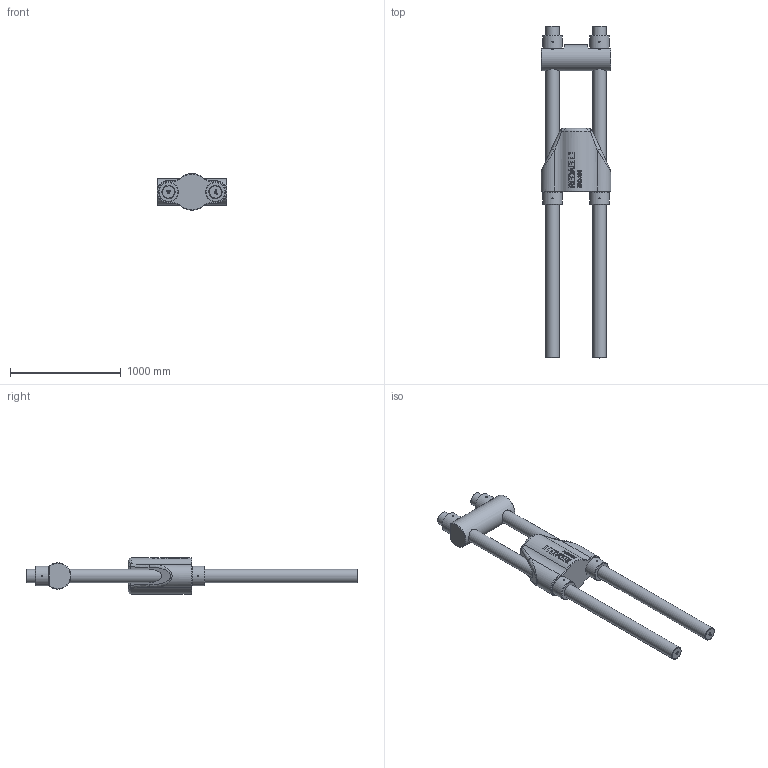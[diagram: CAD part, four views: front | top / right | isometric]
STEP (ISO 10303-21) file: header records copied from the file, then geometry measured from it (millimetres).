
FILE_DESCRIPTION(/* description */ (''),/* implementation_level */ '2;1');
FILE_NAME(/* name */ 'D:\Clienti\Redaelli (inventor)\BRC\STEP\Arrangemet\BRC104 72 111 0.stp',/* time_stamp */ '2021-05-08T08:40:02+02:00',/* author */ ('fabri'),/* organization */ (''),/* preprocessor_version */ 'ST-DEVELOPER v16.13',/* originating_system */ 'Autodesk Inventor 2018',/* authorisation */ '');
FILE_SCHEMA (('AUTOMOTIVE_DESIGN { 1 0 10303 214 3 1 1 }'));
Length unit declared in the file: millimetre
Products named in the file (5): BRC020 72 111 0; BRC020 71 112 0; BRC020 71 114 0_ROD; BRC020 71 113 0; BRC020 71 114 0_NUT
Assembly tree (8 placements, depth 2):
  BRC020 72 111 0
    BRC020 71 112 0
    BRC020 71 114 0_ROD  x2
    BRC020 71 113 0
    BRC020 71 114 0_NUT  x4
Bounding box: 632 x 3000 x 329.17 mm (x, y, z)
Volume: 157120767.9 mm3; surface area: 4762888.6 mm2
Topology: 8 solids, 8 shells, 1460 faces, 3902 edges, 2590 vertices
Faces by surface type: plane 813, bspline 523, cylinder 70, cone 30, torus 20, sphere 4
Full cylindrical faces by diameter (mm): 10 x16, 113.505 x4, 120 x2, 125 x4, 180 x4, 238 x1
Entity records: 28689 total; most frequent: CARTESIAN_POINT 10313, ORIENTED_EDGE 4250, DIRECTION 2789, EDGE_CURVE 2125, VERTEX_POINT 1416, LINE 1279, VECTOR 1279, EDGE_LOOP 917
